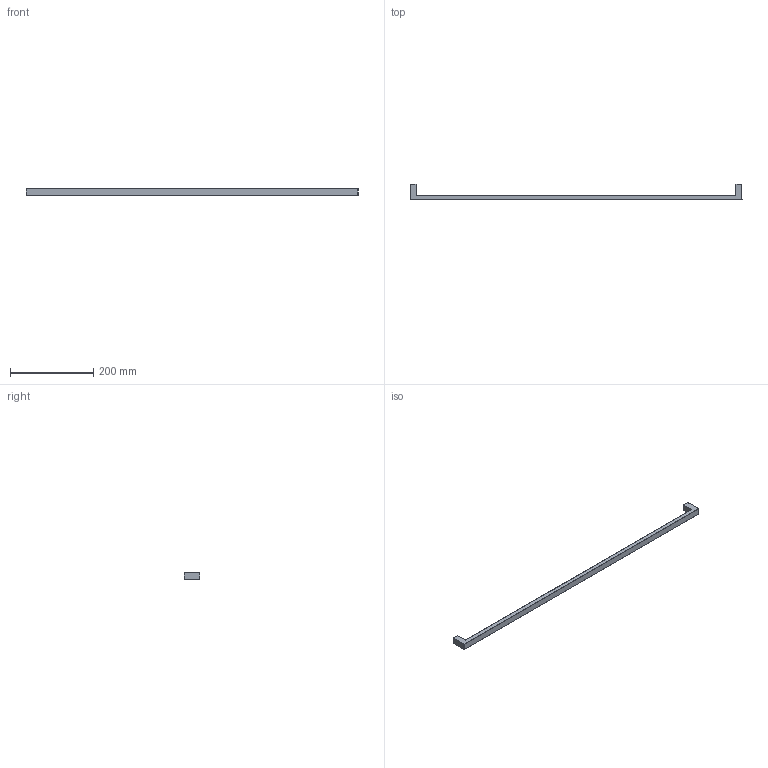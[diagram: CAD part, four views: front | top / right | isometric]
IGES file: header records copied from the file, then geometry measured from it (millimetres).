
Start section: Data from Parasolid IGES Translator 15.0.47, Copyright(c) 2006 Siemens P LM Software. All Rights Reserved.
Global section: file name: 9113258.igs; native system:  By UGS Corp.; preprocessor: XPlus GENERIC/IGES 3.0; author: Noname; organization: Noname; date: 20140122.181737; units: millimetre
Bounding box: 799 x 37.01 x 16.01 mm (x, y, z)
Surface area: 44675.8 mm2 (no closed solid volume)
Topology: 0 solids, 0 shells, 34 faces, 164 edges, 162 vertices
Faces by surface type: revolution 18, extrusion 16
